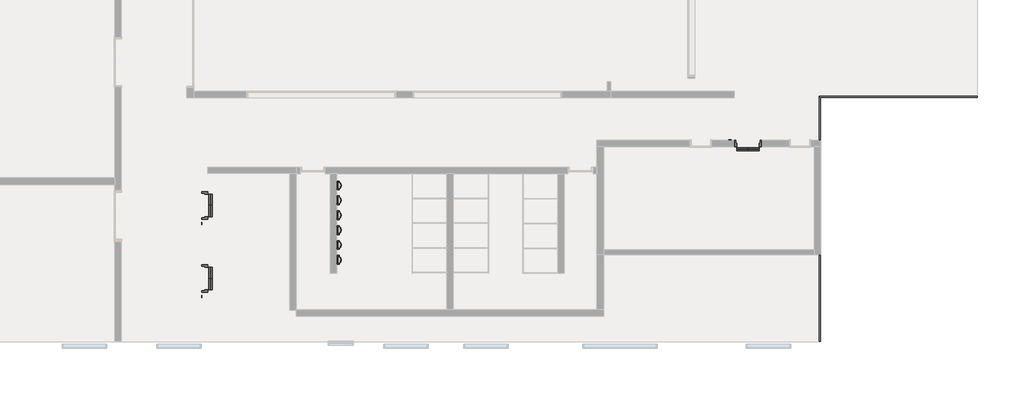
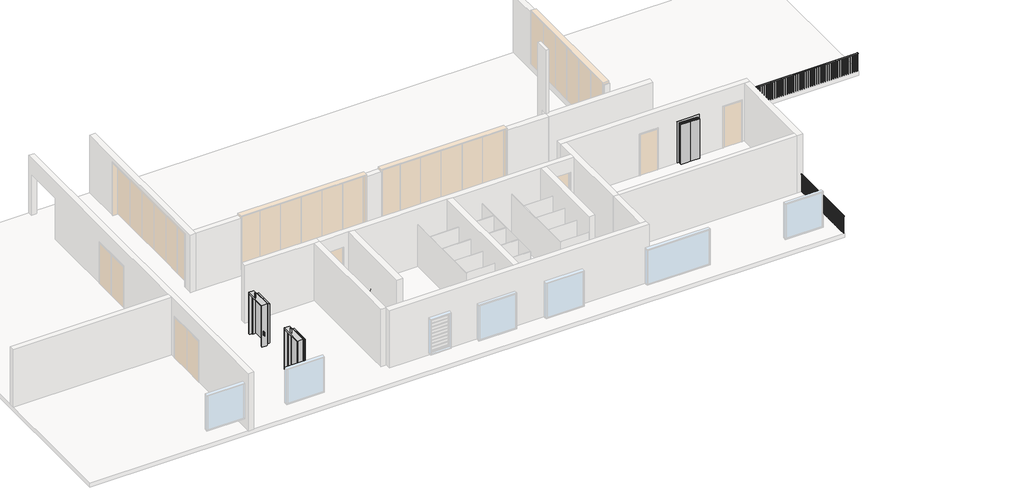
# One storey, part 2 of 2: 6 flow terminals, 3 proxies, 2 railings.
"""IFC4 building model written with IfcOpenShell, lengths in millimetres."""

from ifc_helpers import new_model, si_unit, point, frame, frame_2d, origin, place, context, project, spatial, polyline, circle_curve, ellipse_curve, trimmed, segment, composite_curve, outline, extrude, transform, mapped, element, save
from ifc_brep_helpers import plane_surface, cylinder_surface, advanced_brep
from components import lift_single_entry_gen_type1_208d8e88, lift_single_entry_gen_type1_718a1e9e, urinal_wall_3d_urinal_wall_3d_1d966ad4

model = new_model("IFC4")

# Units and contexts
model_context = context("Model", 3, world=origin())
ifc_project = project(units=[si_unit("LENGTHUNIT", "METRE", prefix="MILLI")], contexts=[model_context])

# Site, building, storey
site = spatial("IfcSite", under=ifc_project)
building = spatial("IfcBuilding", under=site)
storey = spatial("IfcBuildingStorey", under=building, Name="1階", Elevation=29900.0)

# Proxies
placement = place(None, origin())
lift_single_entry_gen_type1_shape = lift_single_entry_gen_type1_208d8e88(model_context)
element("IfcBuildingElementProxy", 1, Name="Lift_Single Entry_GEN : Type1", ObjectType="Lift_Single Entry_GEN : Type1", at=placement, inside=storey, context=model_context, shape_type="MappedRepresentation", body=[
    mapped(lift_single_entry_gen_type1_shape, transform((13819.6062665, 5591.0857154, 29900.0), x_axis=(0.0, 1.0, 0.0), y_axis=(-1.0, 0.0, 0.0), z_axis=(0.0, 0.0, 1.0))),
])
element("IfcBuildingElementProxy", 2, Name="Lift_Single Entry_GEN : Type1", ObjectType="Lift_Single Entry_GEN : Type1", at=placement, inside=storey, context=model_context, shape_type="MappedRepresentation", body=[
    mapped(lift_single_entry_gen_type1_shape, transform((13819.6062665, 2641.0857154, 29900.0), x_axis=(0.0, 1.0, 0.0), y_axis=(-1.0, 0.0, 0.0), z_axis=(0.0, 0.0, 1.0))),
])
lift_single_entry_gen_type1_2_shape = lift_single_entry_gen_type1_718a1e9e(model_context)
element("IfcBuildingElementProxy", 3, Name="Lift_Single Entry_GEN : Type1", ObjectType="Lift_Single Entry_GEN : Type1", at=placement, inside=storey, context=model_context, shape_type="MappedRepresentation", body=[
    mapped(lift_single_entry_gen_type1_2_shape, transform((35508.5511939, 8295.005792, 29900.0), x_axis=(1.0, 0.0, 0.0), y_axis=(0.0, 1.0, 0.0), z_axis=(0.0, 0.0, 1.0))),
])

# Flow terminals
urinal_wall_3d_urinal_wall_3d_shape = urinal_wall_3d_urinal_wall_3d_1d966ad4(model_context)
element("IfcFlowTerminal", 4, ObjectType="Urinal-Wall-3D : Urinal-Wall-3D", at=placement, inside=storey, context=model_context, shape_type="MappedRepresentation", body=[
    mapped(urinal_wall_3d_urinal_wall_3d_shape, transform((19004.6062665, 6491.1825745, 29900.0), x_axis=(0.0, -1.0, 0.0), y_axis=(1.0, 0.0, 0.0), z_axis=(0.0, 0.0, 1.0))),
])
element("IfcFlowTerminal", 5, ObjectType="Urinal-Wall-3D : Urinal-Wall-3D", at=placement, inside=storey, context=model_context, shape_type="MappedRepresentation", body=[
    mapped(urinal_wall_3d_urinal_wall_3d_shape, transform((19004.6062665, 5891.1825745, 29900.0), x_axis=(0.0, -1.0, 0.0), y_axis=(1.0, 0.0, 0.0), z_axis=(0.0, 0.0, 1.0))),
])
element("IfcFlowTerminal", 6, ObjectType="Urinal-Wall-3D : Urinal-Wall-3D", at=placement, inside=storey, context=model_context, shape_type="MappedRepresentation", body=[
    mapped(urinal_wall_3d_urinal_wall_3d_shape, transform((19004.6062665, 5291.1825745, 29900.0), x_axis=(0.0, -1.0, 0.0), y_axis=(1.0, 0.0, 0.0), z_axis=(0.0, 0.0, 1.0))),
])
element("IfcFlowTerminal", 7, ObjectType="Urinal-Wall-3D : Urinal-Wall-3D", at=placement, inside=storey, context=model_context, shape_type="MappedRepresentation", body=[
    mapped(urinal_wall_3d_urinal_wall_3d_shape, transform((19004.6062665, 4691.1825745, 29900.0), x_axis=(0.0, -1.0, 0.0), y_axis=(1.0, 0.0, 0.0), z_axis=(0.0, 0.0, 1.0))),
])
element("IfcFlowTerminal", 8, ObjectType="Urinal-Wall-3D : Urinal-Wall-3D", at=placement, inside=storey, context=model_context, shape_type="MappedRepresentation", body=[
    mapped(urinal_wall_3d_urinal_wall_3d_shape, transform((19004.6062665, 4091.1825745, 29900.0), x_axis=(0.0, -1.0, 0.0), y_axis=(1.0, 0.0, 0.0), z_axis=(0.0, 0.0, 1.0))),
])
element("IfcFlowTerminal", 9, ObjectType="Urinal-Wall-3D : Urinal-Wall-3D", at=placement, inside=storey, context=model_context, shape_type="MappedRepresentation", body=[
    mapped(urinal_wall_3d_urinal_wall_3d_shape, transform((19004.6062665, 3491.1825745, 29900.0), x_axis=(0.0, -1.0, 0.0), y_axis=(1.0, 0.0, 0.0), z_axis=(0.0, 0.0, 1.0))),
])

# Railings
element("IfcRailing", 10, ObjectType="900mm", at=placement, inside=storey, context=model_context, shape_type="SolidModel", body=[
    advanced_brep(
    [(38617.4654784, 8430.005792, 30780.0), (38577.4654784, 8430.005792, 30780.0), (38617.4654784, 10160.005792, 30780.0), (38577.4654784, 10200.005792, 30780.0), (44965.0, 10160.005792, 30780.0), (44965.0, 10200.005792, 30780.0)],
    [
        (0, 1, circle_curve(frame((38597.4654784, 8430.005792, 30780.0), z_axis=(0.0, -1.0, 0.0), x_axis=(-1.0, 0.0, 0.0)), 20.0)),
        (1, 0, circle_curve(frame((38597.4654784, 8430.005792, 30780.0), z_axis=(0.0, -1.0, 0.0), x_axis=(-1.0, 0.0, 0.0)), 20.0)),
        (0, 2),
        (2, 3, ellipse_curve(frame((38597.4654784, 10180.005792, 30780.0), z_axis=(-0.7071067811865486, -0.7071067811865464, 0.0), x_axis=(0.7071067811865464, -0.7071067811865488, 0.0)), 28.2842712, 20.0)),
        (3, 1),
        (3, 2, ellipse_curve(frame((38597.4654784, 10180.005792, 30780.0), z_axis=(-0.7071067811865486, -0.7071067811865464, 0.0), x_axis=(0.7071067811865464, -0.7071067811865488, 0.0)), 28.2842712, 20.0)),
        (4, 5, circle_curve(frame((44965.0, 10180.005792, 30780.0), z_axis=(1.0, 0.0, 0.0), x_axis=(0.0, 1.0, 0.0)), 20.0)),
        (5, 4, circle_curve(frame((44965.0, 10180.005792, 30780.0), z_axis=(1.0, 0.0, 0.0), x_axis=(0.0, 1.0, 0.0)), 20.0)),
        (2, 4),
        (5, 3),
    ],
    [
        plane_surface(frame((38597.4654784, 8430.005792, 30800.0), z_axis=(0.0, -1.0, 0.0), x_axis=(0.0, 0.0, 1.0))),
        cylinder_surface(frame((38597.4654784, 8430.005792, 30780.0), z_axis=(0.0, -1.0, 0.0), x_axis=(-1.0, 0.0, 0.0)), 20.0),
        plane_surface(frame((44965.0, 10180.005792, 30800.0), z_axis=(1.0, 0.0, 0.0), x_axis=(0.0, 1.0, 0.0))),
        cylinder_surface(frame((38597.4654784, 10180.005792, 30780.0), z_axis=(-1.0, 0.0, 0.0), x_axis=(0.0, 1.0, 0.0)), 20.0),
    ],
    [
        (0, [[1, 2]]),
        (1, [[-1, 3, 4, 5]]),
        (1, [[-2, -5, 6, -3]]),
        (2, [[7, 8]]),
        (3, [[-4, 9, -8, 10]]),
        (3, [[-6, -10, -7, -9]]),
    ],
),
    extrude(outline(polyline([(44892.4654784, 10175.005792), (44892.4654784, 10185.005792), (44902.4654784, 10185.005792), (44902.4654784, 10175.005792), (44892.4654784, 10175.005792)])), frame((0.0, 0.0, 29900.0), z_axis=(0.0, 0.0, 1.0), x_axis=(1.0, 0.0, 0.0)), (0.0, 0.0, 1.0), 860.0),
    extrude(outline(polyline([(44792.4654784, 10175.005792), (44792.4654784, 10185.005792), (44802.4654784, 10185.005792), (44802.4654784, 10175.005792), (44792.4654784, 10175.005792)])), frame((0.0, 0.0, 29900.0), z_axis=(0.0, 0.0, 1.0), x_axis=(1.0, 0.0, 0.0)), (0.0, 0.0, 1.0), 860.0),
    extrude(outline(polyline([(44692.4654784, 10175.005792), (44692.4654784, 10185.005792), (44702.4654784, 10185.005792), (44702.4654784, 10175.005792), (44692.4654784, 10175.005792)])), frame((0.0, 0.0, 29900.0), z_axis=(0.0, 0.0, 1.0), x_axis=(1.0, 0.0, 0.0)), (0.0, 0.0, 1.0), 860.0),
    extrude(outline(polyline([(44592.4654784, 10175.005792), (44592.4654784, 10185.005792), (44602.4654784, 10185.005792), (44602.4654784, 10175.005792), (44592.4654784, 10175.005792)])), frame((0.0, 0.0, 29900.0), z_axis=(0.0, 0.0, 1.0), x_axis=(1.0, 0.0, 0.0)), (0.0, 0.0, 1.0), 860.0),
    extrude(outline(polyline([(44492.4654784, 10175.005792), (44492.4654784, 10185.005792), (44502.4654784, 10185.005792), (44502.4654784, 10175.005792), (44492.4654784, 10175.005792)])), frame((0.0, 0.0, 29900.0), z_axis=(0.0, 0.0, 1.0), x_axis=(1.0, 0.0, 0.0)), (0.0, 0.0, 1.0), 860.0),
    extrude(outline(polyline([(44392.4654784, 10175.005792), (44392.4654784, 10185.005792), (44402.4654784, 10185.005792), (44402.4654784, 10175.005792), (44392.4654784, 10175.005792)])), frame((0.0, 0.0, 29900.0), z_axis=(0.0, 0.0, 1.0), x_axis=(1.0, 0.0, 0.0)), (0.0, 0.0, 1.0), 860.0),
    extrude(outline(polyline([(44292.4654784, 10175.005792), (44292.4654784, 10185.005792), (44302.4654784, 10185.005792), (44302.4654784, 10175.005792), (44292.4654784, 10175.005792)])), frame((0.0, 0.0, 29900.0), z_axis=(0.0, 0.0, 1.0), x_axis=(1.0, 0.0, 0.0)), (0.0, 0.0, 1.0), 860.0),
    extrude(outline(polyline([(44192.4654784, 10175.005792), (44192.4654784, 10185.005792), (44202.4654784, 10185.005792), (44202.4654784, 10175.005792), (44192.4654784, 10175.005792)])), frame((0.0, 0.0, 29900.0), z_axis=(0.0, 0.0, 1.0), x_axis=(1.0, 0.0, 0.0)), (0.0, 0.0, 1.0), 860.0),
    extrude(outline(polyline([(44092.4654784, 10175.005792), (44092.4654784, 10185.005792), (44102.4654784, 10185.005792), (44102.4654784, 10175.005792), (44092.4654784, 10175.005792)])), frame((0.0, 0.0, 29900.0), z_axis=(0.0, 0.0, 1.0), x_axis=(1.0, 0.0, 0.0)), (0.0, 0.0, 1.0), 860.0),
    extrude(outline(polyline([(43992.4654784, 10175.005792), (43992.4654784, 10185.005792), (44002.4654784, 10185.005792), (44002.4654784, 10175.005792), (43992.4654784, 10175.005792)])), frame((0.0, 0.0, 29900.0), z_axis=(0.0, 0.0, 1.0), x_axis=(1.0, 0.0, 0.0)), (0.0, 0.0, 1.0), 860.0),
    extrude(outline(polyline([(43892.4654784, 10175.005792), (43892.4654784, 10185.005792), (43902.4654784, 10185.005792), (43902.4654784, 10175.005792), (43892.4654784, 10175.005792)])), frame((0.0, 0.0, 29900.0), z_axis=(0.0, 0.0, 1.0), x_axis=(1.0, 0.0, 0.0)), (0.0, 0.0, 1.0), 860.0),
    extrude(outline(polyline([(43792.4654784, 10175.005792), (43792.4654784, 10185.005792), (43802.4654784, 10185.005792), (43802.4654784, 10175.005792), (43792.4654784, 10175.005792)])), frame((0.0, 0.0, 29900.0), z_axis=(0.0, 0.0, 1.0), x_axis=(1.0, 0.0, 0.0)), (0.0, 0.0, 1.0), 860.0),
    extrude(outline(polyline([(43692.4654784, 10175.005792), (43692.4654784, 10185.005792), (43702.4654784, 10185.005792), (43702.4654784, 10175.005792), (43692.4654784, 10175.005792)])), frame((0.0, 0.0, 29900.0), z_axis=(0.0, 0.0, 1.0), x_axis=(1.0, 0.0, 0.0)), (0.0, 0.0, 1.0), 860.0),
    extrude(outline(polyline([(43592.4654784, 10175.005792), (43592.4654784, 10185.005792), (43602.4654784, 10185.005792), (43602.4654784, 10175.005792), (43592.4654784, 10175.005792)])), frame((0.0, 0.0, 29900.0), z_axis=(0.0, 0.0, 1.0), x_axis=(1.0, 0.0, 0.0)), (0.0, 0.0, 1.0), 860.0),
    extrude(outline(polyline([(43492.4654784, 10175.005792), (43492.4654784, 10185.005792), (43502.4654784, 10185.005792), (43502.4654784, 10175.005792), (43492.4654784, 10175.005792)])), frame((0.0, 0.0, 29900.0), z_axis=(0.0, 0.0, 1.0), x_axis=(1.0, 0.0, 0.0)), (0.0, 0.0, 1.0), 860.0),
    extrude(outline(polyline([(43392.4654784, 10175.005792), (43392.4654784, 10185.005792), (43402.4654784, 10185.005792), (43402.4654784, 10175.005792), (43392.4654784, 10175.005792)])), frame((0.0, 0.0, 29900.0), z_axis=(0.0, 0.0, 1.0), x_axis=(1.0, 0.0, 0.0)), (0.0, 0.0, 1.0), 860.0),
    extrude(outline(polyline([(43292.4654784, 10175.005792), (43292.4654784, 10185.005792), (43302.4654784, 10185.005792), (43302.4654784, 10175.005792), (43292.4654784, 10175.005792)])), frame((0.0, 0.0, 29900.0), z_axis=(0.0, 0.0, 1.0), x_axis=(1.0, 0.0, 0.0)), (0.0, 0.0, 1.0), 860.0),
    extrude(outline(polyline([(43192.4654784, 10175.005792), (43192.4654784, 10185.005792), (43202.4654784, 10185.005792), (43202.4654784, 10175.005792), (43192.4654784, 10175.005792)])), frame((0.0, 0.0, 29900.0), z_axis=(0.0, 0.0, 1.0), x_axis=(1.0, 0.0, 0.0)), (0.0, 0.0, 1.0), 860.0),
    extrude(outline(polyline([(43092.4654784, 10175.005792), (43092.4654784, 10185.005792), (43102.4654784, 10185.005792), (43102.4654784, 10175.005792), (43092.4654784, 10175.005792)])), frame((0.0, 0.0, 29900.0), z_axis=(0.0, 0.0, 1.0), x_axis=(1.0, 0.0, 0.0)), (0.0, 0.0, 1.0), 860.0),
    extrude(outline(polyline([(42992.4654784, 10175.005792), (42992.4654784, 10185.005792), (43002.4654784, 10185.005792), (43002.4654784, 10175.005792), (42992.4654784, 10175.005792)])), frame((0.0, 0.0, 29900.0), z_axis=(0.0, 0.0, 1.0), x_axis=(1.0, 0.0, 0.0)), (0.0, 0.0, 1.0), 860.0),
    extrude(outline(polyline([(42892.4654784, 10175.005792), (42892.4654784, 10185.005792), (42902.4654784, 10185.005792), (42902.4654784, 10175.005792), (42892.4654784, 10175.005792)])), frame((0.0, 0.0, 29900.0), z_axis=(0.0, 0.0, 1.0), x_axis=(1.0, 0.0, 0.0)), (0.0, 0.0, 1.0), 860.0),
    extrude(outline(polyline([(42792.4654784, 10175.005792), (42792.4654784, 10185.005792), (42802.4654784, 10185.005792), (42802.4654784, 10175.005792), (42792.4654784, 10175.005792)])), frame((0.0, 0.0, 29900.0), z_axis=(0.0, 0.0, 1.0), x_axis=(1.0, 0.0, 0.0)), (0.0, 0.0, 1.0), 860.0),
    extrude(outline(polyline([(42692.4654784, 10175.005792), (42692.4654784, 10185.005792), (42702.4654784, 10185.005792), (42702.4654784, 10175.005792), (42692.4654784, 10175.005792)])), frame((0.0, 0.0, 29900.0), z_axis=(0.0, 0.0, 1.0), x_axis=(1.0, 0.0, 0.0)), (0.0, 0.0, 1.0), 860.0),
    extrude(outline(polyline([(42592.4654784, 10175.005792), (42592.4654784, 10185.005792), (42602.4654784, 10185.005792), (42602.4654784, 10175.005792), (42592.4654784, 10175.005792)])), frame((0.0, 0.0, 29900.0), z_axis=(0.0, 0.0, 1.0), x_axis=(1.0, 0.0, 0.0)), (0.0, 0.0, 1.0), 860.0),
    extrude(outline(polyline([(42492.4654784, 10175.005792), (42492.4654784, 10185.005792), (42502.4654784, 10185.005792), (42502.4654784, 10175.005792), (42492.4654784, 10175.005792)])), frame((0.0, 0.0, 29900.0), z_axis=(0.0, 0.0, 1.0), x_axis=(1.0, 0.0, 0.0)), (0.0, 0.0, 1.0), 860.0),
    extrude(outline(polyline([(42392.4654784, 10175.005792), (42392.4654784, 10185.005792), (42402.4654784, 10185.005792), (42402.4654784, 10175.005792), (42392.4654784, 10175.005792)])), frame((0.0, 0.0, 29900.0), z_axis=(0.0, 0.0, 1.0), x_axis=(1.0, 0.0, 0.0)), (0.0, 0.0, 1.0), 860.0),
    extrude(outline(polyline([(42292.4654784, 10175.005792), (42292.4654784, 10185.005792), (42302.4654784, 10185.005792), (42302.4654784, 10175.005792), (42292.4654784, 10175.005792)])), frame((0.0, 0.0, 29900.0), z_axis=(0.0, 0.0, 1.0), x_axis=(1.0, 0.0, 0.0)), (0.0, 0.0, 1.0), 860.0),
    extrude(outline(polyline([(42192.4654784, 10175.005792), (42192.4654784, 10185.005792), (42202.4654784, 10185.005792), (42202.4654784, 10175.005792), (42192.4654784, 10175.005792)])), frame((0.0, 0.0, 29900.0), z_axis=(0.0, 0.0, 1.0), x_axis=(1.0, 0.0, 0.0)), (0.0, 0.0, 1.0), 860.0),
    extrude(outline(polyline([(42092.4654784, 10175.005792), (42092.4654784, 10185.005792), (42102.4654784, 10185.005792), (42102.4654784, 10175.005792), (42092.4654784, 10175.005792)])), frame((0.0, 0.0, 29900.0), z_axis=(0.0, 0.0, 1.0), x_axis=(1.0, 0.0, 0.0)), (0.0, 0.0, 1.0), 860.0),
    extrude(outline(polyline([(41992.4654784, 10175.005792), (41992.4654784, 10185.005792), (42002.4654784, 10185.005792), (42002.4654784, 10175.005792), (41992.4654784, 10175.005792)])), frame((0.0, 0.0, 29900.0), z_axis=(0.0, 0.0, 1.0), x_axis=(1.0, 0.0, 0.0)), (0.0, 0.0, 1.0), 860.0),
    extrude(outline(polyline([(41892.4654784, 10175.005792), (41892.4654784, 10185.005792), (41902.4654784, 10185.005792), (41902.4654784, 10175.005792), (41892.4654784, 10175.005792)])), frame((0.0, 0.0, 29900.0), z_axis=(0.0, 0.0, 1.0), x_axis=(1.0, 0.0, 0.0)), (0.0, 0.0, 1.0), 860.0),
    extrude(outline(polyline([(41792.4654784, 10175.005792), (41792.4654784, 10185.005792), (41802.4654784, 10185.005792), (41802.4654784, 10175.005792), (41792.4654784, 10175.005792)])), frame((0.0, 0.0, 29900.0), z_axis=(0.0, 0.0, 1.0), x_axis=(1.0, 0.0, 0.0)), (0.0, 0.0, 1.0), 860.0),
    extrude(outline(polyline([(41692.4654784, 10175.005792), (41692.4654784, 10185.005792), (41702.4654784, 10185.005792), (41702.4654784, 10175.005792), (41692.4654784, 10175.005792)])), frame((0.0, 0.0, 29900.0), z_axis=(0.0, 0.0, 1.0), x_axis=(1.0, 0.0, 0.0)), (0.0, 0.0, 1.0), 860.0),
    extrude(outline(polyline([(41592.4654784, 10175.005792), (41592.4654784, 10185.005792), (41602.4654784, 10185.005792), (41602.4654784, 10175.005792), (41592.4654784, 10175.005792)])), frame((0.0, 0.0, 29900.0), z_axis=(0.0, 0.0, 1.0), x_axis=(1.0, 0.0, 0.0)), (0.0, 0.0, 1.0), 860.0),
    extrude(outline(polyline([(41492.4654784, 10175.005792), (41492.4654784, 10185.005792), (41502.4654784, 10185.005792), (41502.4654784, 10175.005792), (41492.4654784, 10175.005792)])), frame((0.0, 0.0, 29900.0), z_axis=(0.0, 0.0, 1.0), x_axis=(1.0, 0.0, 0.0)), (0.0, 0.0, 1.0), 860.0),
    extrude(outline(polyline([(41392.4654784, 10175.005792), (41392.4654784, 10185.005792), (41402.4654784, 10185.005792), (41402.4654784, 10175.005792), (41392.4654784, 10175.005792)])), frame((0.0, 0.0, 29900.0), z_axis=(0.0, 0.0, 1.0), x_axis=(1.0, 0.0, 0.0)), (0.0, 0.0, 1.0), 860.0),
    extrude(outline(polyline([(41292.4654784, 10175.005792), (41292.4654784, 10185.005792), (41302.4654784, 10185.005792), (41302.4654784, 10175.005792), (41292.4654784, 10175.005792)])), frame((0.0, 0.0, 29900.0), z_axis=(0.0, 0.0, 1.0), x_axis=(1.0, 0.0, 0.0)), (0.0, 0.0, 1.0), 860.0),
    extrude(outline(polyline([(41192.4654784, 10175.005792), (41192.4654784, 10185.005792), (41202.4654784, 10185.005792), (41202.4654784, 10175.005792), (41192.4654784, 10175.005792)])), frame((0.0, 0.0, 29900.0), z_axis=(0.0, 0.0, 1.0), x_axis=(1.0, 0.0, 0.0)), (0.0, 0.0, 1.0), 860.0),
    extrude(outline(polyline([(41092.4654784, 10175.005792), (41092.4654784, 10185.005792), (41102.4654784, 10185.005792), (41102.4654784, 10175.005792), (41092.4654784, 10175.005792)])), frame((0.0, 0.0, 29900.0), z_axis=(0.0, 0.0, 1.0), x_axis=(1.0, 0.0, 0.0)), (0.0, 0.0, 1.0), 860.0),
    extrude(outline(polyline([(40992.4654784, 10175.005792), (40992.4654784, 10185.005792), (41002.4654784, 10185.005792), (41002.4654784, 10175.005792), (40992.4654784, 10175.005792)])), frame((0.0, 0.0, 29900.0), z_axis=(0.0, 0.0, 1.0), x_axis=(1.0, 0.0, 0.0)), (0.0, 0.0, 1.0), 860.0),
    extrude(outline(polyline([(40892.4654784, 10175.005792), (40892.4654784, 10185.005792), (40902.4654784, 10185.005792), (40902.4654784, 10175.005792), (40892.4654784, 10175.005792)])), frame((0.0, 0.0, 29900.0), z_axis=(0.0, 0.0, 1.0), x_axis=(1.0, 0.0, 0.0)), (0.0, 0.0, 1.0), 860.0),
    extrude(outline(polyline([(40792.4654784, 10175.005792), (40792.4654784, 10185.005792), (40802.4654784, 10185.005792), (40802.4654784, 10175.005792), (40792.4654784, 10175.005792)])), frame((0.0, 0.0, 29900.0), z_axis=(0.0, 0.0, 1.0), x_axis=(1.0, 0.0, 0.0)), (0.0, 0.0, 1.0), 860.0),
    extrude(outline(polyline([(40692.4654784, 10175.005792), (40692.4654784, 10185.005792), (40702.4654784, 10185.005792), (40702.4654784, 10175.005792), (40692.4654784, 10175.005792)])), frame((0.0, 0.0, 29900.0), z_axis=(0.0, 0.0, 1.0), x_axis=(1.0, 0.0, 0.0)), (0.0, 0.0, 1.0), 860.0),
    extrude(outline(polyline([(40592.4654784, 10175.005792), (40592.4654784, 10185.005792), (40602.4654784, 10185.005792), (40602.4654784, 10175.005792), (40592.4654784, 10175.005792)])), frame((0.0, 0.0, 29900.0), z_axis=(0.0, 0.0, 1.0), x_axis=(1.0, 0.0, 0.0)), (0.0, 0.0, 1.0), 860.0),
    extrude(outline(polyline([(40492.4654784, 10175.005792), (40492.4654784, 10185.005792), (40502.4654784, 10185.005792), (40502.4654784, 10175.005792), (40492.4654784, 10175.005792)])), frame((0.0, 0.0, 29900.0), z_axis=(0.0, 0.0, 1.0), x_axis=(1.0, 0.0, 0.0)), (0.0, 0.0, 1.0), 860.0),
    extrude(outline(polyline([(40392.4654784, 10175.005792), (40392.4654784, 10185.005792), (40402.4654784, 10185.005792), (40402.4654784, 10175.005792), (40392.4654784, 10175.005792)])), frame((0.0, 0.0, 29900.0), z_axis=(0.0, 0.0, 1.0), x_axis=(1.0, 0.0, 0.0)), (0.0, 0.0, 1.0), 860.0),
    extrude(outline(polyline([(40292.4654784, 10175.005792), (40292.4654784, 10185.005792), (40302.4654784, 10185.005792), (40302.4654784, 10175.005792), (40292.4654784, 10175.005792)])), frame((0.0, 0.0, 29900.0), z_axis=(0.0, 0.0, 1.0), x_axis=(1.0, 0.0, 0.0)), (0.0, 0.0, 1.0), 860.0),
    extrude(outline(polyline([(40192.4654784, 10175.005792), (40192.4654784, 10185.005792), (40202.4654784, 10185.005792), (40202.4654784, 10175.005792), (40192.4654784, 10175.005792)])), frame((0.0, 0.0, 29900.0), z_axis=(0.0, 0.0, 1.0), x_axis=(1.0, 0.0, 0.0)), (0.0, 0.0, 1.0), 860.0),
    extrude(outline(polyline([(40092.4654784, 10175.005792), (40092.4654784, 10185.005792), (40102.4654784, 10185.005792), (40102.4654784, 10175.005792), (40092.4654784, 10175.005792)])), frame((0.0, 0.0, 29900.0), z_axis=(0.0, 0.0, 1.0), x_axis=(1.0, 0.0, 0.0)), (0.0, 0.0, 1.0), 860.0),
    extrude(outline(polyline([(39992.4654784, 10175.005792), (39992.4654784, 10185.005792), (40002.4654784, 10185.005792), (40002.4654784, 10175.005792), (39992.4654784, 10175.005792)])), frame((0.0, 0.0, 29900.0), z_axis=(0.0, 0.0, 1.0), x_axis=(1.0, 0.0, 0.0)), (0.0, 0.0, 1.0), 860.0),
    extrude(outline(polyline([(39892.4654784, 10175.005792), (39892.4654784, 10185.005792), (39902.4654784, 10185.005792), (39902.4654784, 10175.005792), (39892.4654784, 10175.005792)])), frame((0.0, 0.0, 29900.0), z_axis=(0.0, 0.0, 1.0), x_axis=(1.0, 0.0, 0.0)), (0.0, 0.0, 1.0), 860.0),
    extrude(outline(polyline([(39792.4654784, 10175.005792), (39792.4654784, 10185.005792), (39802.4654784, 10185.005792), (39802.4654784, 10175.005792), (39792.4654784, 10175.005792)])), frame((0.0, 0.0, 29900.0), z_axis=(0.0, 0.0, 1.0), x_axis=(1.0, 0.0, 0.0)), (0.0, 0.0, 1.0), 860.0),
    extrude(outline(polyline([(39692.4654784, 10175.005792), (39692.4654784, 10185.005792), (39702.4654784, 10185.005792), (39702.4654784, 10175.005792), (39692.4654784, 10175.005792)])), frame((0.0, 0.0, 29900.0), z_axis=(0.0, 0.0, 1.0), x_axis=(1.0, 0.0, 0.0)), (0.0, 0.0, 1.0), 860.0),
    extrude(outline(polyline([(39592.4654784, 10175.005792), (39592.4654784, 10185.005792), (39602.4654784, 10185.005792), (39602.4654784, 10175.005792), (39592.4654784, 10175.005792)])), frame((0.0, 0.0, 29900.0), z_axis=(0.0, 0.0, 1.0), x_axis=(1.0, 0.0, 0.0)), (0.0, 0.0, 1.0), 860.0),
    extrude(outline(polyline([(39492.4654784, 10175.005792), (39492.4654784, 10185.005792), (39502.4654784, 10185.005792), (39502.4654784, 10175.005792), (39492.4654784, 10175.005792)])), frame((0.0, 0.0, 29900.0), z_axis=(0.0, 0.0, 1.0), x_axis=(1.0, 0.0, 0.0)), (0.0, 0.0, 1.0), 860.0),
    extrude(outline(polyline([(39392.4654784, 10175.005792), (39392.4654784, 10185.005792), (39402.4654784, 10185.005792), (39402.4654784, 10175.005792), (39392.4654784, 10175.005792)])), frame((0.0, 0.0, 29900.0), z_axis=(0.0, 0.0, 1.0), x_axis=(1.0, 0.0, 0.0)), (0.0, 0.0, 1.0), 860.0),
    extrude(outline(polyline([(39292.4654784, 10175.005792), (39292.4654784, 10185.005792), (39302.4654784, 10185.005792), (39302.4654784, 10175.005792), (39292.4654784, 10175.005792)])), frame((0.0, 0.0, 29900.0), z_axis=(0.0, 0.0, 1.0), x_axis=(1.0, 0.0, 0.0)), (0.0, 0.0, 1.0), 860.0),
    extrude(outline(polyline([(39192.4654784, 10175.005792), (39192.4654784, 10185.005792), (39202.4654784, 10185.005792), (39202.4654784, 10175.005792), (39192.4654784, 10175.005792)])), frame((0.0, 0.0, 29900.0), z_axis=(0.0, 0.0, 1.0), x_axis=(1.0, 0.0, 0.0)), (0.0, 0.0, 1.0), 860.0),
    extrude(outline(polyline([(39092.4654784, 10175.005792), (39092.4654784, 10185.005792), (39102.4654784, 10185.005792), (39102.4654784, 10175.005792), (39092.4654784, 10175.005792)])), frame((0.0, 0.0, 29900.0), z_axis=(0.0, 0.0, 1.0), x_axis=(1.0, 0.0, 0.0)), (0.0, 0.0, 1.0), 860.0),
    extrude(outline(polyline([(38992.4654784, 10175.005792), (38992.4654784, 10185.005792), (39002.4654784, 10185.005792), (39002.4654784, 10175.005792), (38992.4654784, 10175.005792)])), frame((0.0, 0.0, 29900.0), z_axis=(0.0, 0.0, 1.0), x_axis=(1.0, 0.0, 0.0)), (0.0, 0.0, 1.0), 860.0),
    extrude(outline(polyline([(38892.4654784, 10175.005792), (38892.4654784, 10185.005792), (38902.4654784, 10185.005792), (38902.4654784, 10175.005792), (38892.4654784, 10175.005792)])), frame((0.0, 0.0, 29900.0), z_axis=(0.0, 0.0, 1.0), x_axis=(1.0, 0.0, 0.0)), (0.0, 0.0, 1.0), 860.0),
    extrude(outline(polyline([(38792.4654784, 10175.005792), (38792.4654784, 10185.005792), (38802.4654784, 10185.005792), (38802.4654784, 10175.005792), (38792.4654784, 10175.005792)])), frame((0.0, 0.0, 29900.0), z_axis=(0.0, 0.0, 1.0), x_axis=(1.0, 0.0, 0.0)), (0.0, 0.0, 1.0), 860.0),
    extrude(outline(polyline([(38692.4654784, 10175.005792), (38692.4654784, 10185.005792), (38702.4654784, 10185.005792), (38702.4654784, 10175.005792), (38692.4654784, 10175.005792)])), frame((0.0, 0.0, 29900.0), z_axis=(0.0, 0.0, 1.0), x_axis=(1.0, 0.0, 0.0)), (0.0, 0.0, 1.0), 860.0),
    extrude(outline(polyline([(38602.4654784, 10125.005792), (38592.4654784, 10125.005792), (38592.4654784, 10135.005792), (38602.4654784, 10135.005792), (38602.4654784, 10125.005792)])), frame((0.0, 0.0, 29900.0), z_axis=(0.0, 0.0, 1.0), x_axis=(1.0, 0.0, 0.0)), (0.0, 0.0, 1.0), 860.0),
    extrude(outline(polyline([(38602.4654784, 10025.005792), (38592.4654784, 10025.005792), (38592.4654784, 10035.005792), (38602.4654784, 10035.005792), (38602.4654784, 10025.005792)])), frame((0.0, 0.0, 29900.0), z_axis=(0.0, 0.0, 1.0), x_axis=(1.0, 0.0, 0.0)), (0.0, 0.0, 1.0), 860.0),
    extrude(outline(polyline([(38602.4654784, 9925.005792), (38592.4654784, 9925.005792), (38592.4654784, 9935.005792), (38602.4654784, 9935.005792), (38602.4654784, 9925.005792)])), frame((0.0, 0.0, 29900.0), z_axis=(0.0, 0.0, 1.0), x_axis=(1.0, 0.0, 0.0)), (0.0, 0.0, 1.0), 860.0),
    extrude(outline(polyline([(38602.4654784, 9825.005792), (38592.4654784, 9825.005792), (38592.4654784, 9835.005792), (38602.4654784, 9835.005792), (38602.4654784, 9825.005792)])), frame((0.0, 0.0, 29900.0), z_axis=(0.0, 0.0, 1.0), x_axis=(1.0, 0.0, 0.0)), (0.0, 0.0, 1.0), 860.0),
    extrude(outline(polyline([(38602.4654784, 9725.005792), (38592.4654784, 9725.005792), (38592.4654784, 9735.005792), (38602.4654784, 9735.005792), (38602.4654784, 9725.005792)])), frame((0.0, 0.0, 29900.0), z_axis=(0.0, 0.0, 1.0), x_axis=(1.0, 0.0, 0.0)), (0.0, 0.0, 1.0), 860.0),
    extrude(outline(polyline([(38602.4654784, 9625.005792), (38592.4654784, 9625.005792), (38592.4654784, 9635.005792), (38602.4654784, 9635.005792), (38602.4654784, 9625.005792)])), frame((0.0, 0.0, 29900.0), z_axis=(0.0, 0.0, 1.0), x_axis=(1.0, 0.0, 0.0)), (0.0, 0.0, 1.0), 860.0),
    extrude(outline(polyline([(38602.4654784, 9525.005792), (38592.4654784, 9525.005792), (38592.4654784, 9535.005792), (38602.4654784, 9535.005792), (38602.4654784, 9525.005792)])), frame((0.0, 0.0, 29900.0), z_axis=(0.0, 0.0, 1.0), x_axis=(1.0, 0.0, 0.0)), (0.0, 0.0, 1.0), 860.0),
    extrude(outline(polyline([(38602.4654784, 9425.005792), (38592.4654784, 9425.005792), (38592.4654784, 9435.005792), (38602.4654784, 9435.005792), (38602.4654784, 9425.005792)])), frame((0.0, 0.0, 29900.0), z_axis=(0.0, 0.0, 1.0), x_axis=(1.0, 0.0, 0.0)), (0.0, 0.0, 1.0), 860.0),
    extrude(outline(polyline([(38602.4654784, 9325.005792), (38592.4654784, 9325.005792), (38592.4654784, 9335.005792), (38602.4654784, 9335.005792), (38602.4654784, 9325.005792)])), frame((0.0, 0.0, 29900.0), z_axis=(0.0, 0.0, 1.0), x_axis=(1.0, 0.0, 0.0)), (0.0, 0.0, 1.0), 860.0),
    extrude(outline(polyline([(38602.4654784, 9225.005792), (38592.4654784, 9225.005792), (38592.4654784, 9235.005792), (38602.4654784, 9235.005792), (38602.4654784, 9225.005792)])), frame((0.0, 0.0, 29900.0), z_axis=(0.0, 0.0, 1.0), x_axis=(1.0, 0.0, 0.0)), (0.0, 0.0, 1.0), 860.0),
    extrude(outline(polyline([(38602.4654784, 9125.005792), (38592.4654784, 9125.005792), (38592.4654784, 9135.005792), (38602.4654784, 9135.005792), (38602.4654784, 9125.005792)])), frame((0.0, 0.0, 29900.0), z_axis=(0.0, 0.0, 1.0), x_axis=(1.0, 0.0, 0.0)), (0.0, 0.0, 1.0), 860.0),
    extrude(outline(polyline([(38602.4654784, 9025.005792), (38592.4654784, 9025.005792), (38592.4654784, 9035.005792), (38602.4654784, 9035.005792), (38602.4654784, 9025.005792)])), frame((0.0, 0.0, 29900.0), z_axis=(0.0, 0.0, 1.0), x_axis=(1.0, 0.0, 0.0)), (0.0, 0.0, 1.0), 860.0),
    extrude(outline(polyline([(38602.4654784, 8925.005792), (38592.4654784, 8925.005792), (38592.4654784, 8935.005792), (38602.4654784, 8935.005792), (38602.4654784, 8925.005792)])), frame((0.0, 0.0, 29900.0), z_axis=(0.0, 0.0, 1.0), x_axis=(1.0, 0.0, 0.0)), (0.0, 0.0, 1.0), 860.0),
    extrude(outline(polyline([(38602.4654784, 8825.005792), (38592.4654784, 8825.005792), (38592.4654784, 8835.005792), (38602.4654784, 8835.005792), (38602.4654784, 8825.005792)])), frame((0.0, 0.0, 29900.0), z_axis=(0.0, 0.0, 1.0), x_axis=(1.0, 0.0, 0.0)), (0.0, 0.0, 1.0), 860.0),
    extrude(outline(polyline([(38602.4654784, 8725.005792), (38592.4654784, 8725.005792), (38592.4654784, 8735.005792), (38602.4654784, 8735.005792), (38602.4654784, 8725.005792)])), frame((0.0, 0.0, 29900.0), z_axis=(0.0, 0.0, 1.0), x_axis=(1.0, 0.0, 0.0)), (0.0, 0.0, 1.0), 860.0),
    extrude(outline(polyline([(38602.4654784, 8625.005792), (38592.4654784, 8625.005792), (38592.4654784, 8635.005792), (38602.4654784, 8635.005792), (38602.4654784, 8625.005792)])), frame((0.0, 0.0, 29900.0), z_axis=(0.0, 0.0, 1.0), x_axis=(1.0, 0.0, 0.0)), (0.0, 0.0, 1.0), 860.0),
    extrude(outline(polyline([(38602.4654784, 8525.005792), (38592.4654784, 8525.005792), (38592.4654784, 8535.005792), (38602.4654784, 8535.005792), (38602.4654784, 8525.005792)])), frame((0.0, 0.0, 29900.0), z_axis=(0.0, 0.0, 1.0), x_axis=(1.0, 0.0, 0.0)), (0.0, 0.0, 1.0), 860.0),
    extrude(outline(polyline([(38602.4654784, 10175.005792), (38592.4654784, 10175.005792), (38592.4654784, 10185.005792), (38602.4654784, 10185.005792), (38602.4654784, 10175.005792)])), frame((0.0, 0.0, 29900.0), z_axis=(0.0, 0.0, 1.0), x_axis=(1.0, 0.0, 0.0)), (0.0, 0.0, 1.0), 860.0),
    extrude(outline(polyline([(44950.0, 10175.005792), (44950.0, 10185.005792), (44960.0, 10185.005792), (44960.0, 10175.005792), (44950.0, 10175.005792)])), frame((0.0, 0.0, 29900.0), z_axis=(0.0, 0.0, 1.0), x_axis=(1.0, 0.0, 0.0)), (0.0, 0.0, 1.0), 860.0),
    extrude(outline(polyline([(38602.4654784, 8435.005792), (38592.4654784, 8435.005792), (38592.4654784, 8445.005792), (38602.4654784, 8445.005792), (38602.4654784, 8435.005792)])), frame((0.0, 0.0, 29900.0), z_axis=(0.0, 0.0, 1.0), x_axis=(1.0, 0.0, 0.0)), (0.0, 0.0, 1.0), 860.0),
])
element("IfcRailing", 11, ObjectType="900mm", at=placement, inside=storey, context=model_context, shape_type="SweptSolid", body=[
    extrude(outline(composite_curve([segment(trimmed(circle_curve(frame_2d((30780.0, 38597.4654784)), 20.0), [point((30780.0, 38617.4654784))], [point((30780.0, 38577.4654784))], False, "CARTESIAN"), True, "CONTINUOUS"), segment(trimmed(circle_curve(frame_2d((30780.0, 38597.4654784)), 20.0), [point((30780.0, 38577.4654784))], [point((30780.0, 38617.4654784))], False, "CARTESIAN"), True, "CONTINUOUS")], self_intersect=False)), frame((0.0, 309.0898177, 0.0), z_axis=(0.0, 1.0, 0.0), x_axis=(0.0, 0.0, 1.0)), (0.0, 0.0, 1.0), 3507.1782597),
    extrude(outline(polyline([(38602.4654784, 3804.0898177), (38592.4654784, 3804.0898177), (38592.4654784, 3814.0898177), (38602.4654784, 3814.0898177), (38602.4654784, 3804.0898177)])), frame((0.0, 0.0, 29900.0), z_axis=(0.0, 0.0, 1.0), x_axis=(1.0, 0.0, 0.0)), (0.0, 0.0, 1.0), 860.0),
    extrude(outline(polyline([(38602.4654784, 3704.0898177), (38592.4654784, 3704.0898177), (38592.4654784, 3714.0898177), (38602.4654784, 3714.0898177), (38602.4654784, 3704.0898177)])), frame((0.0, 0.0, 29900.0), z_axis=(0.0, 0.0, 1.0), x_axis=(1.0, 0.0, 0.0)), (0.0, 0.0, 1.0), 860.0),
    extrude(outline(polyline([(38602.4654784, 3604.0898177), (38592.4654784, 3604.0898177), (38592.4654784, 3614.0898177), (38602.4654784, 3614.0898177), (38602.4654784, 3604.0898177)])), frame((0.0, 0.0, 29900.0), z_axis=(0.0, 0.0, 1.0), x_axis=(1.0, 0.0, 0.0)), (0.0, 0.0, 1.0), 860.0),
    extrude(outline(polyline([(38602.4654784, 3504.0898177), (38592.4654784, 3504.0898177), (38592.4654784, 3514.0898177), (38602.4654784, 3514.0898177), (38602.4654784, 3504.0898177)])), frame((0.0, 0.0, 29900.0), z_axis=(0.0, 0.0, 1.0), x_axis=(1.0, 0.0, 0.0)), (0.0, 0.0, 1.0), 860.0),
    extrude(outline(polyline([(38602.4654784, 3404.0898177), (38592.4654784, 3404.0898177), (38592.4654784, 3414.0898177), (38602.4654784, 3414.0898177), (38602.4654784, 3404.0898177)])), frame((0.0, 0.0, 29900.0), z_axis=(0.0, 0.0, 1.0), x_axis=(1.0, 0.0, 0.0)), (0.0, 0.0, 1.0), 860.0),
    extrude(outline(polyline([(38602.4654784, 3304.0898177), (38592.4654784, 3304.0898177), (38592.4654784, 3314.0898177), (38602.4654784, 3314.0898177), (38602.4654784, 3304.0898177)])), frame((0.0, 0.0, 29900.0), z_axis=(0.0, 0.0, 1.0), x_axis=(1.0, 0.0, 0.0)), (0.0, 0.0, 1.0), 860.0),
    extrude(outline(polyline([(38602.4654784, 3204.0898177), (38592.4654784, 3204.0898177), (38592.4654784, 3214.0898177), (38602.4654784, 3214.0898177), (38602.4654784, 3204.0898177)])), frame((0.0, 0.0, 29900.0), z_axis=(0.0, 0.0, 1.0), x_axis=(1.0, 0.0, 0.0)), (0.0, 0.0, 1.0), 860.0),
    extrude(outline(polyline([(38602.4654784, 3104.0898177), (38592.4654784, 3104.0898177), (38592.4654784, 3114.0898177), (38602.4654784, 3114.0898177), (38602.4654784, 3104.0898177)])), frame((0.0, 0.0, 29900.0), z_axis=(0.0, 0.0, 1.0), x_axis=(1.0, 0.0, 0.0)), (0.0, 0.0, 1.0), 860.0),
    extrude(outline(polyline([(38602.4654784, 3004.0898177), (38592.4654784, 3004.0898177), (38592.4654784, 3014.0898177), (38602.4654784, 3014.0898177), (38602.4654784, 3004.0898177)])), frame((0.0, 0.0, 29900.0), z_axis=(0.0, 0.0, 1.0), x_axis=(1.0, 0.0, 0.0)), (0.0, 0.0, 1.0), 860.0),
    extrude(outline(polyline([(38602.4654784, 2904.0898177), (38592.4654784, 2904.0898177), (38592.4654784, 2914.0898177), (38602.4654784, 2914.0898177), (38602.4654784, 2904.0898177)])), frame((0.0, 0.0, 29900.0), z_axis=(0.0, 0.0, 1.0), x_axis=(1.0, 0.0, 0.0)), (0.0, 0.0, 1.0), 860.0),
    extrude(outline(polyline([(38602.4654784, 2804.0898177), (38592.4654784, 2804.0898177), (38592.4654784, 2814.0898177), (38602.4654784, 2814.0898177), (38602.4654784, 2804.0898177)])), frame((0.0, 0.0, 29900.0), z_axis=(0.0, 0.0, 1.0), x_axis=(1.0, 0.0, 0.0)), (0.0, 0.0, 1.0), 860.0),
    extrude(outline(polyline([(38602.4654784, 2704.0898177), (38592.4654784, 2704.0898177), (38592.4654784, 2714.0898177), (38602.4654784, 2714.0898177), (38602.4654784, 2704.0898177)])), frame((0.0, 0.0, 29900.0), z_axis=(0.0, 0.0, 1.0), x_axis=(1.0, 0.0, 0.0)), (0.0, 0.0, 1.0), 860.0),
    extrude(outline(polyline([(38602.4654784, 2604.0898177), (38592.4654784, 2604.0898177), (38592.4654784, 2614.0898177), (38602.4654784, 2614.0898177), (38602.4654784, 2604.0898177)])), frame((0.0, 0.0, 29900.0), z_axis=(0.0, 0.0, 1.0), x_axis=(1.0, 0.0, 0.0)), (0.0, 0.0, 1.0), 860.0),
    extrude(outline(polyline([(38602.4654784, 2504.0898177), (38592.4654784, 2504.0898177), (38592.4654784, 2514.0898177), (38602.4654784, 2514.0898177), (38602.4654784, 2504.0898177)])), frame((0.0, 0.0, 29900.0), z_axis=(0.0, 0.0, 1.0), x_axis=(1.0, 0.0, 0.0)), (0.0, 0.0, 1.0), 860.0),
    extrude(outline(polyline([(38602.4654784, 2404.0898177), (38592.4654784, 2404.0898177), (38592.4654784, 2414.0898177), (38602.4654784, 2414.0898177), (38602.4654784, 2404.0898177)])), frame((0.0, 0.0, 29900.0), z_axis=(0.0, 0.0, 1.0), x_axis=(1.0, 0.0, 0.0)), (0.0, 0.0, 1.0), 860.0),
    extrude(outline(polyline([(38602.4654784, 2304.0898177), (38592.4654784, 2304.0898177), (38592.4654784, 2314.0898177), (38602.4654784, 2314.0898177), (38602.4654784, 2304.0898177)])), frame((0.0, 0.0, 29900.0), z_axis=(0.0, 0.0, 1.0), x_axis=(1.0, 0.0, 0.0)), (0.0, 0.0, 1.0), 860.0),
    extrude(outline(polyline([(38602.4654784, 2204.0898177), (38592.4654784, 2204.0898177), (38592.4654784, 2214.0898177), (38602.4654784, 2214.0898177), (38602.4654784, 2204.0898177)])), frame((0.0, 0.0, 29900.0), z_axis=(0.0, 0.0, 1.0), x_axis=(1.0, 0.0, 0.0)), (0.0, 0.0, 1.0), 860.0),
    extrude(outline(polyline([(38602.4654784, 2104.0898177), (38592.4654784, 2104.0898177), (38592.4654784, 2114.0898177), (38602.4654784, 2114.0898177), (38602.4654784, 2104.0898177)])), frame((0.0, 0.0, 29900.0), z_axis=(0.0, 0.0, 1.0), x_axis=(1.0, 0.0, 0.0)), (0.0, 0.0, 1.0), 860.0),
    extrude(outline(polyline([(38602.4654784, 2004.0898177), (38592.4654784, 2004.0898177), (38592.4654784, 2014.0898177), (38602.4654784, 2014.0898177), (38602.4654784, 2004.0898177)])), frame((0.0, 0.0, 29900.0), z_axis=(0.0, 0.0, 1.0), x_axis=(1.0, 0.0, 0.0)), (0.0, 0.0, 1.0), 860.0),
    extrude(outline(polyline([(38602.4654784, 1904.0898177), (38592.4654784, 1904.0898177), (38592.4654784, 1914.0898177), (38602.4654784, 1914.0898177), (38602.4654784, 1904.0898177)])), frame((0.0, 0.0, 29900.0), z_axis=(0.0, 0.0, 1.0), x_axis=(1.0, 0.0, 0.0)), (0.0, 0.0, 1.0), 860.0),
    extrude(outline(polyline([(38602.4654784, 1804.0898177), (38592.4654784, 1804.0898177), (38592.4654784, 1814.0898177), (38602.4654784, 1814.0898177), (38602.4654784, 1804.0898177)])), frame((0.0, 0.0, 29900.0), z_axis=(0.0, 0.0, 1.0), x_axis=(1.0, 0.0, 0.0)), (0.0, 0.0, 1.0), 860.0),
    extrude(outline(polyline([(38602.4654784, 1704.0898177), (38592.4654784, 1704.0898177), (38592.4654784, 1714.0898177), (38602.4654784, 1714.0898177), (38602.4654784, 1704.0898177)])), frame((0.0, 0.0, 29900.0), z_axis=(0.0, 0.0, 1.0), x_axis=(1.0, 0.0, 0.0)), (0.0, 0.0, 1.0), 860.0),
    extrude(outline(polyline([(38602.4654784, 1604.0898177), (38592.4654784, 1604.0898177), (38592.4654784, 1614.0898177), (38602.4654784, 1614.0898177), (38602.4654784, 1604.0898177)])), frame((0.0, 0.0, 29900.0), z_axis=(0.0, 0.0, 1.0), x_axis=(1.0, 0.0, 0.0)), (0.0, 0.0, 1.0), 860.0),
    extrude(outline(polyline([(38602.4654784, 1504.0898177), (38592.4654784, 1504.0898177), (38592.4654784, 1514.0898177), (38602.4654784, 1514.0898177), (38602.4654784, 1504.0898177)])), frame((0.0, 0.0, 29900.0), z_axis=(0.0, 0.0, 1.0), x_axis=(1.0, 0.0, 0.0)), (0.0, 0.0, 1.0), 860.0),
    extrude(outline(polyline([(38602.4654784, 1404.0898177), (38592.4654784, 1404.0898177), (38592.4654784, 1414.0898177), (38602.4654784, 1414.0898177), (38602.4654784, 1404.0898177)])), frame((0.0, 0.0, 29900.0), z_axis=(0.0, 0.0, 1.0), x_axis=(1.0, 0.0, 0.0)), (0.0, 0.0, 1.0), 860.0),
    extrude(outline(polyline([(38602.4654784, 1304.0898177), (38592.4654784, 1304.0898177), (38592.4654784, 1314.0898177), (38602.4654784, 1314.0898177), (38602.4654784, 1304.0898177)])), frame((0.0, 0.0, 29900.0), z_axis=(0.0, 0.0, 1.0), x_axis=(1.0, 0.0, 0.0)), (0.0, 0.0, 1.0), 860.0),
    extrude(outline(polyline([(38602.4654784, 1204.0898177), (38592.4654784, 1204.0898177), (38592.4654784, 1214.0898177), (38602.4654784, 1214.0898177), (38602.4654784, 1204.0898177)])), frame((0.0, 0.0, 29900.0), z_axis=(0.0, 0.0, 1.0), x_axis=(1.0, 0.0, 0.0)), (0.0, 0.0, 1.0), 860.0),
    extrude(outline(polyline([(38602.4654784, 1104.0898177), (38592.4654784, 1104.0898177), (38592.4654784, 1114.0898177), (38602.4654784, 1114.0898177), (38602.4654784, 1104.0898177)])), frame((0.0, 0.0, 29900.0), z_axis=(0.0, 0.0, 1.0), x_axis=(1.0, 0.0, 0.0)), (0.0, 0.0, 1.0), 860.0),
    extrude(outline(polyline([(38602.4654784, 1004.0898177), (38592.4654784, 1004.0898177), (38592.4654784, 1014.0898177), (38602.4654784, 1014.0898177), (38602.4654784, 1004.0898177)])), frame((0.0, 0.0, 29900.0), z_axis=(0.0, 0.0, 1.0), x_axis=(1.0, 0.0, 0.0)), (0.0, 0.0, 1.0), 860.0),
    extrude(outline(polyline([(38602.4654784, 904.0898177), (38592.4654784, 904.0898177), (38592.4654784, 914.0898177), (38602.4654784, 914.0898177), (38602.4654784, 904.0898177)])), frame((0.0, 0.0, 29900.0), z_axis=(0.0, 0.0, 1.0), x_axis=(1.0, 0.0, 0.0)), (0.0, 0.0, 1.0), 860.0),
    extrude(outline(polyline([(38602.4654784, 804.0898177), (38592.4654784, 804.0898177), (38592.4654784, 814.0898177), (38602.4654784, 814.0898177), (38602.4654784, 804.0898177)])), frame((0.0, 0.0, 29900.0), z_axis=(0.0, 0.0, 1.0), x_axis=(1.0, 0.0, 0.0)), (0.0, 0.0, 1.0), 860.0),
    extrude(outline(polyline([(38602.4654784, 704.0898177), (38592.4654784, 704.0898177), (38592.4654784, 714.0898177), (38602.4654784, 714.0898177), (38602.4654784, 704.0898177)])), frame((0.0, 0.0, 29900.0), z_axis=(0.0, 0.0, 1.0), x_axis=(1.0, 0.0, 0.0)), (0.0, 0.0, 1.0), 860.0),
    extrude(outline(polyline([(38602.4654784, 604.0898177), (38592.4654784, 604.0898177), (38592.4654784, 614.0898177), (38602.4654784, 614.0898177), (38602.4654784, 604.0898177)])), frame((0.0, 0.0, 29900.0), z_axis=(0.0, 0.0, 1.0), x_axis=(1.0, 0.0, 0.0)), (0.0, 0.0, 1.0), 860.0),
    extrude(outline(polyline([(38602.4654784, 504.0898177), (38592.4654784, 504.0898177), (38592.4654784, 514.0898177), (38602.4654784, 514.0898177), (38602.4654784, 504.0898177)])), frame((0.0, 0.0, 29900.0), z_axis=(0.0, 0.0, 1.0), x_axis=(1.0, 0.0, 0.0)), (0.0, 0.0, 1.0), 860.0),
    extrude(outline(polyline([(38602.4654784, 404.0898177), (38592.4654784, 404.0898177), (38592.4654784, 414.0898177), (38602.4654784, 414.0898177), (38602.4654784, 404.0898177)])), frame((0.0, 0.0, 29900.0), z_axis=(0.0, 0.0, 1.0), x_axis=(1.0, 0.0, 0.0)), (0.0, 0.0, 1.0), 860.0),
    extrude(outline(polyline([(38602.4654784, 3801.2680774), (38592.4654784, 3801.2680774), (38592.4654784, 3811.2680774), (38602.4654784, 3811.2680774), (38602.4654784, 3801.2680774)])), frame((0.0, 0.0, 29900.0), z_axis=(0.0, 0.0, 1.0), x_axis=(1.0, 0.0, 0.0)), (0.0, 0.0, 1.0), 860.0),
    extrude(outline(polyline([(38602.4654784, 314.0898177), (38592.4654784, 314.0898177), (38592.4654784, 324.0898177), (38602.4654784, 324.0898177), (38602.4654784, 314.0898177)])), frame((0.0, 0.0, 29900.0), z_axis=(0.0, 0.0, 1.0), x_axis=(1.0, 0.0, 0.0)), (0.0, 0.0, 1.0), 860.0),
])

save(model, "model.ifc")
